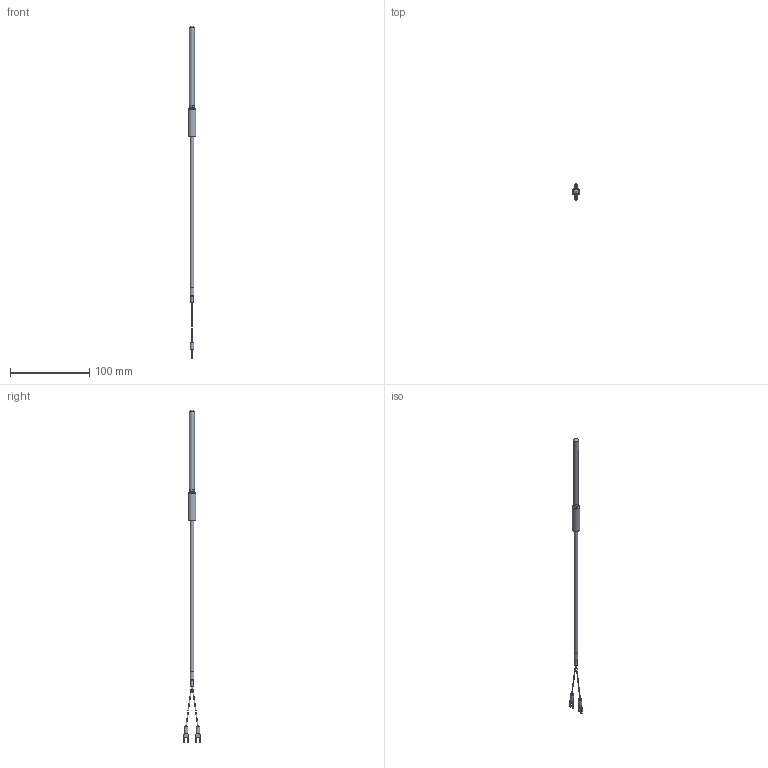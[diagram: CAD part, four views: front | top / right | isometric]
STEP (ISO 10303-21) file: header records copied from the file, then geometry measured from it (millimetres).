
FILE_DESCRIPTION (( 'STEP AP203' ), '1' );
FILE_NAME ('YIT101-6(0).STEP', '2024-11-21T04:04:38', ( '' ), ( '' ), 'SwSTEP 2.0', 'SolidWorks 2021', '' );
FILE_SCHEMA (( 'CONFIG_CONTROL_DESIGN' ));
Length unit declared in the file: millimetre
Products named in the file (1): YIT101-6(0)
Bounding box: 10 x 20.85 x 420 mm (x, y, z)
Volume: 10260.1 mm3; surface area: 7231.9 mm2
Topology: 1 solids, 1 shells, 67 faces, 163 edges, 106 vertices
Faces by surface type: plane 34, cylinder 21, bspline 8, cone 3, torus 1
Full cylindrical faces by diameter (mm): 3.16 x1, 4.5 x2, 4.8 x1, 5 x1, 6.4 x1, 10 x1
Entity records: 2125 total; most frequent: CARTESIAN_POINT 562, DIRECTION 300, ORIENTED_EDGE 290, EDGE_CURVE 145, AXIS2_PLACEMENT_3D 107, VERTEX_POINT 101, EDGE_LOOP 88, LINE 86
